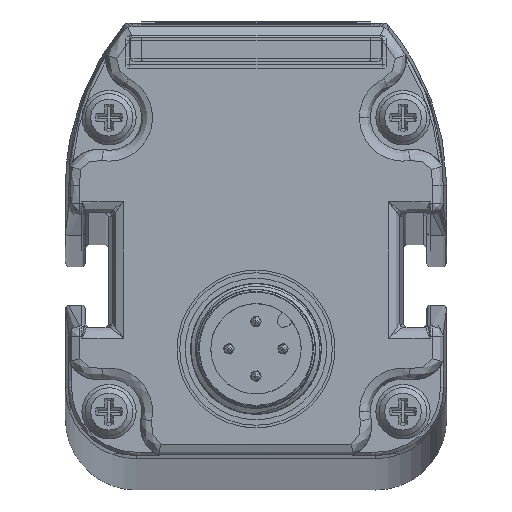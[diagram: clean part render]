
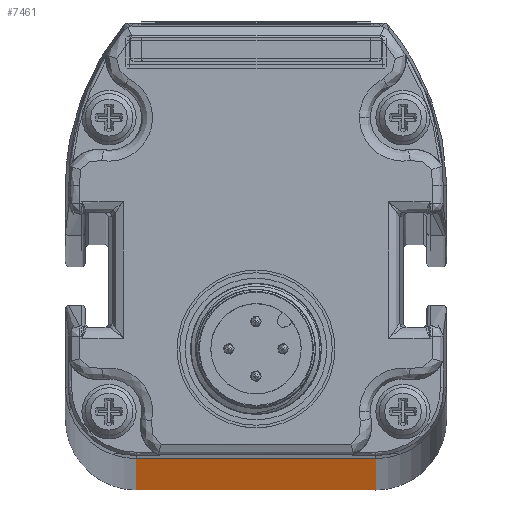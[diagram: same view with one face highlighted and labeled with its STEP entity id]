
A CAD part, top view. The second image highlights one B-rep face of the part: STEP entity #7461.
In plain terms, the highlighted planar face has unit normal (0, -1, 0).
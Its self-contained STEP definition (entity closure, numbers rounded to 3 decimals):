
#6863=B_SPLINE_CURVE_WITH_KNOTS('',3,(#29923,#29924,#29925,#29926),
 .UNSPECIFIED.,.F.,.F.,(4,4),(0.,1.),.UNSPECIFIED.);
#6864=B_SPLINE_CURVE_WITH_KNOTS('',3,(#29928,#29929,#29930,#29931),
 .UNSPECIFIED.,.F.,.F.,(4,4),(0.,1.),.UNSPECIFIED.);
#6865=B_SPLINE_CURVE_WITH_KNOTS('',3,(#29937,#29938,#29939,#29940),
 .UNSPECIFIED.,.F.,.F.,(4,4),(0.,1.),.UNSPECIFIED.);
#6866=B_SPLINE_CURVE_WITH_KNOTS('',3,(#29942,#29943,#29944,#29945),
 .UNSPECIFIED.,.F.,.F.,(4,4),(0.,1.),.UNSPECIFIED.);
#7461=ADVANCED_FACE('F5555',(#8870),#8443,.T.);
#8443=PLANE('',#22894);
#8870=FACE_OUTER_BOUND('',#9798,.T.);
#9798=EDGE_LOOP('',(#12102,#12103,#12104,#12105,#12106,#12107));
#12102=ORIENTED_EDGE('',*,*,#18728,.T.);
#12103=ORIENTED_EDGE('',*,*,#18727,.T.);
#12104=ORIENTED_EDGE('',*,*,#18730,.F.);
#12105=ORIENTED_EDGE('',*,*,#18731,.T.);
#12106=ORIENTED_EDGE('',*,*,#18732,.T.);
#12107=ORIENTED_EDGE('',*,*,#18733,.F.);
#17013=VERTEX_POINT('',#29922);
#17014=VERTEX_POINT('',#29927);
#17015=VERTEX_POINT('',#29932);
#17016=VERTEX_POINT('',#29936);
#17017=VERTEX_POINT('',#29941);
#17018=VERTEX_POINT('',#29946);
#18727=EDGE_CURVE('',#17014,#17013,#6863,.T.);
#18728=EDGE_CURVE('',#17015,#17014,#6864,.T.);
#18730=EDGE_CURVE('',#17016,#17013,#21001,.T.);
#18731=EDGE_CURVE('',#17016,#17017,#6865,.T.);
#18732=EDGE_CURVE('',#17017,#17018,#6866,.T.);
#18733=EDGE_CURVE('',#17015,#17018,#21002,.T.);
#21001=LINE('',#29935,#21924);
#21002=LINE('',#29947,#21925);
#21924=VECTOR('',#24753,1.);
#21925=VECTOR('',#24754,1.);
#22894=AXIS2_PLACEMENT_3D('',#29948,#24755,#24756);
#24753=DIRECTION('',(1.,0.,0.));
#24754=DIRECTION('',(-1.,0.,0.));
#24755=DIRECTION('',(0.,-1.,0.));
#24756=DIRECTION('',(1.,0.,0.));
#29922=CARTESIAN_POINT('',(93.013,-2.493,1674.168));
#29923=CARTESIAN_POINT('',(93.013,-2.493,1564.618));
#29924=CARTESIAN_POINT('',(93.013,-2.493,1601.135));
#29925=CARTESIAN_POINT('',(93.013,-2.493,1637.652));
#29926=CARTESIAN_POINT('',(93.013,-2.493,1674.168));
#29927=CARTESIAN_POINT('',(93.013,-2.493,1564.618));
#29928=CARTESIAN_POINT('',(93.013,-2.493,24.068));
#29929=CARTESIAN_POINT('',(93.013,-2.493,537.585));
#29930=CARTESIAN_POINT('',(93.013,-2.493,1051.102));
#29931=CARTESIAN_POINT('',(93.013,-2.493,1564.618));
#29932=CARTESIAN_POINT('',(93.013,-2.493,24.068));
#29935=CARTESIAN_POINT('',(82.013,-2.493,1674.168));
#29936=CARTESIAN_POINT('',(71.013,-2.493,1674.168));
#29937=CARTESIAN_POINT('',(71.013,-2.493,1674.168));
#29938=CARTESIAN_POINT('',(71.013,-2.493,1637.652));
#29939=CARTESIAN_POINT('',(71.013,-2.493,1601.135));
#29940=CARTESIAN_POINT('',(71.013,-2.493,1564.618));
#29941=CARTESIAN_POINT('',(71.013,-2.493,1564.618));
#29942=CARTESIAN_POINT('',(71.013,-2.493,1564.618));
#29943=CARTESIAN_POINT('',(71.013,-2.493,1051.102));
#29944=CARTESIAN_POINT('',(71.013,-2.493,537.585));
#29945=CARTESIAN_POINT('',(71.013,-2.493,24.068));
#29946=CARTESIAN_POINT('',(71.013,-2.493,24.068));
#29947=CARTESIAN_POINT('',(64.513,-2.493,24.068));
#29948=CARTESIAN_POINT('',(64.513,-2.493,-1005.332));
